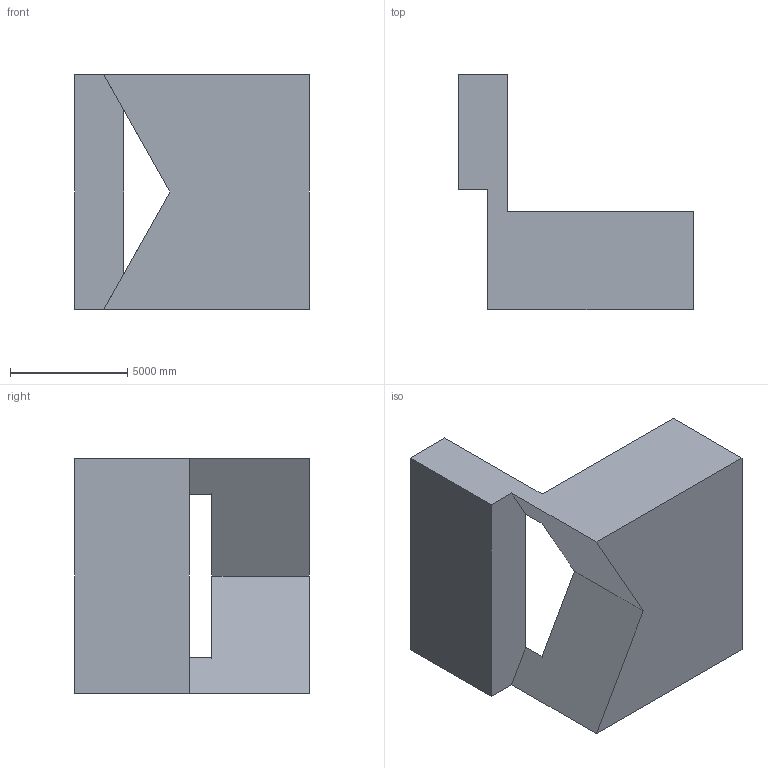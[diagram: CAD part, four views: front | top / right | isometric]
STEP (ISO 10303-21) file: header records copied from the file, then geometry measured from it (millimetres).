
FILE_DESCRIPTION (( 'STEP AP203' ), '1' );
FILE_NAME ('1088.STEP', '2022-08-25T14:41:22', ( 'user' ), ( '' ), 'SwSTEP 2.0', 'SolidWorks 2021', '' );
FILE_SCHEMA (( 'CONFIG_CONTROL_DESIGN' ));
Length unit declared in the file: centimetre
Products named in the file (1): 1088
Bounding box: 10000 x 10000 x 10000 mm (x, y, z)
Volume: 409095968139.6 mm3; surface area: 474560646.1 mm2
Topology: 1 solids, 1 shells, 11 faces, 33 edges, 22 vertices
Faces by surface type: plane 11
Entity records: 448 total; most frequent: CARTESIAN_POINT 67, ORIENTED_EDGE 66, DIRECTION 57, EDGE_CURVE 33, VECTOR 33, LINE 33, VERTEX_POINT 22, AXIS2_PLACEMENT_3D 12
